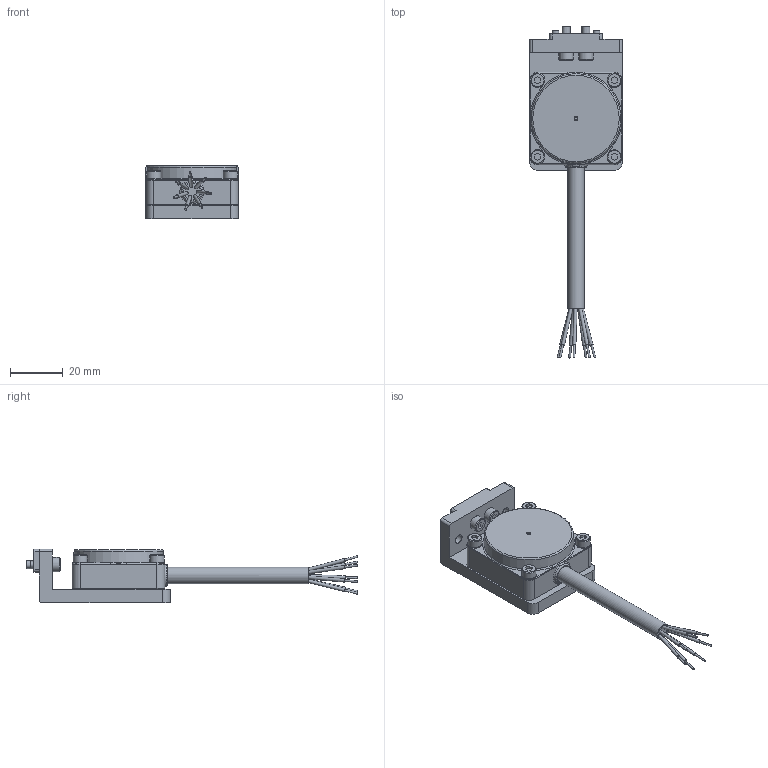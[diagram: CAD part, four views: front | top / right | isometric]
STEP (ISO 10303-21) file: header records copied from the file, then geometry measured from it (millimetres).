
FILE_DESCRIPTION(('STEP AP214'),'1');
FILE_NAME('KHB-1HS-NN4,NP4_ver1.stp','2026-04-23T23:49:48',(' '),(' '),'Spatial InterOp 3D',' ',' ');
FILE_SCHEMA(('AUTOMOTIVE_DESIGN { 1 0 10303 214 1 1 1 1 }'));
Length unit declared in the file: millimetre
Products named in the file (1): KHB-1HS-NN4,NP4_ver1
Bounding box: 35 x 125.57 x 20.2 mm (x, y, z)
Volume: 29278.3 mm3; surface area: 12902.8 mm2
Topology: 1 solids, 5 shells, 268 faces, 621 edges, 408 vertices
Faces by surface type: plane 122, cylinder 83, cone 21, torus 21, bspline 21
Full cylindrical faces by diameter (mm): 0.7 x7, 1.2 x7, 2.5 x8, 3 x4, 3.3 x4, 3.5 x4, 5 x4, 5.41 x6, 5.5 x4, 6.3 x1
Entity records: 9566 total; most frequent: CARTESIAN_POINT 1685, DIRECTION 1235, ORIENTED_EDGE 1030, EDGE_CURVE 515, AXIS2_PLACEMENT_3D 508, EDGE_LOOP 405, VERTEX_POINT 376, FACE_OUTER_BOUND 321
